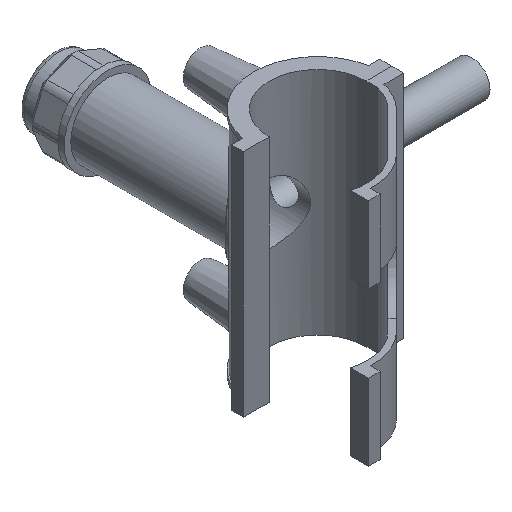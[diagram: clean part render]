
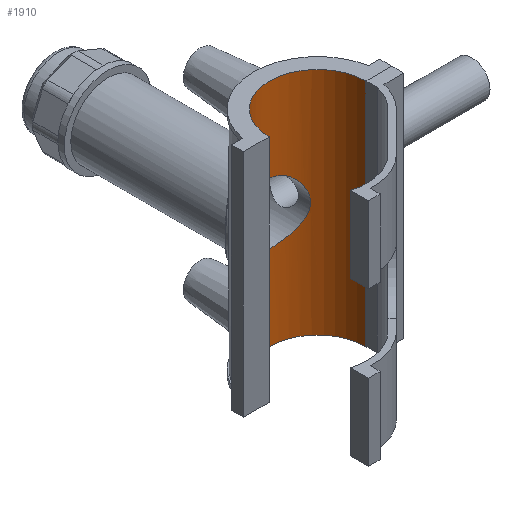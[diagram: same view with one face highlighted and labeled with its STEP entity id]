
A CAD part, isometric view. The second image highlights one B-rep face of the part: STEP entity #1910.
In plain terms, the highlighted cylindrical face has radius 21.05 mm (diameter 42.1 mm), a partial arc.
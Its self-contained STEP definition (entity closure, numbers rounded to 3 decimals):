
#114=FACE_BOUND('',#312,.T.);
#195=FACE_OUTER_BOUND('',#311,.T.);
#311=EDGE_LOOP('',(#1638,#1639,#1640,#1641));
#312=EDGE_LOOP('',(#1642,#1643));
#342=B_SPLINE_CURVE_WITH_KNOTS('',3,(#2735,#2736,#2737,#2738,#2739,#2740,
#2741,#2742,#2743,#2744,#2745,#2746,#2747,#2748,#2749,#2750,#2751,#2752,
#2753,#2754,#2755,#2756,#2757,#2758,#2759,#2760,#2761,#2762,#2763,#2764,
#2765,#2766,#2767,#2768,#2769,#2770,#2771,#2772),.UNSPECIFIED.,.F.,.F.,
(4,2,2,2,2,2,2,2,2,2,2,2,2,2,2,2,2,2,4),(0.,0.26,0.52,
1.039,1.554,1.812,2.07,2.327,
2.585,3.1,3.62,3.88,4.14,
4.399,4.659,5.179,5.694,5.952,
6.209),.UNSPECIFIED.);
#343=B_SPLINE_CURVE_WITH_KNOTS('',3,(#2773,#2774,#2775,#2776,#2777,#2778,
#2779,#2780,#2781,#2782,#2783,#2784,#2785,#2786),.UNSPECIFIED.,.F.,.F.,
(4,2,2,2,2,2,4),(6.209,6.467,6.725,7.24,
7.759,8.019,8.279),.UNSPECIFIED.);
#464=LINE('',#3675,#620);
#465=LINE('',#3679,#621);
#620=VECTOR('',#2567,10.);
#621=VECTOR('',#2570,10.);
#750=CIRCLE('',#2115,21.05);
#751=CIRCLE('',#2117,21.05);
#770=VERTEX_POINT('',#2732);
#771=VERTEX_POINT('',#2734);
#903=VERTEX_POINT('',#3669);
#905=VERTEX_POINT('',#3673);
#906=VERTEX_POINT('',#3677);
#907=VERTEX_POINT('',#3678);
#956=EDGE_CURVE('',#771,#770,#342,.T.);
#957=EDGE_CURVE('',#770,#771,#343,.T.);
#1158=EDGE_CURVE('',#903,#905,#464,.T.);
#1159=EDGE_CURVE('',#906,#907,#465,.T.);
#1165=EDGE_CURVE('',#903,#907,#750,.T.);
#1166=EDGE_CURVE('',#906,#905,#751,.T.);
#1638=ORIENTED_EDGE('',*,*,#1159,.T.);
#1639=ORIENTED_EDGE('',*,*,#1165,.F.);
#1640=ORIENTED_EDGE('',*,*,#1158,.T.);
#1641=ORIENTED_EDGE('',*,*,#1166,.F.);
#1642=ORIENTED_EDGE('',*,*,#956,.T.);
#1643=ORIENTED_EDGE('',*,*,#957,.T.);
#1822=CYLINDRICAL_SURFACE('',#2118,21.05);
#1910=ADVANCED_FACE('',(#195,#114),#1822,.F.);
#2115=AXIS2_PLACEMENT_3D('',#3688,#2578,#2579);
#2117=AXIS2_PLACEMENT_3D('',#3690,#2582,#2583);
#2118=AXIS2_PLACEMENT_3D('',#3693,#2586,#2587);
#2567=DIRECTION('',(0.,0.,-1.));
#2570=DIRECTION('',(0.,0.,1.));
#2578=DIRECTION('center_axis',(0.,0.,-1.));
#2579=DIRECTION('ref_axis',(-1.,0.,0.));
#2582=DIRECTION('center_axis',(0.,0.,1.));
#2583=DIRECTION('ref_axis',(-1.,0.,0.));
#2586=DIRECTION('center_axis',(0.,0.,1.));
#2587=DIRECTION('ref_axis',(-1.,0.,0.));
#2732=CARTESIAN_POINT('',(0.,21.05,-13.262));
#2734=CARTESIAN_POINT('',(-13.262,16.347,0.));
#2735=CARTESIAN_POINT('Ctrl Pts',(-13.262,16.347,0.));
#2736=CARTESIAN_POINT('Ctrl Pts',(-13.262,16.347,0.866));
#2737=CARTESIAN_POINT('Ctrl Pts',(-13.175,16.418,1.748));
#2738=CARTESIAN_POINT('Ctrl Pts',(-12.827,16.692,3.483));
#2739=CARTESIAN_POINT('Ctrl Pts',(-12.564,16.895,4.335));
#2740=CARTESIAN_POINT('Ctrl Pts',(-11.541,17.624,6.766));
#2741=CARTESIAN_POINT('Ctrl Pts',(-10.533,18.271,8.222));
#2742=CARTESIAN_POINT('Ctrl Pts',(-8.232,19.416,10.523));
#2743=CARTESIAN_POINT('Ctrl Pts',(-6.773,20.001,11.538));
#2744=CARTESIAN_POINT('Ctrl Pts',(-4.331,20.617,12.565));
#2745=CARTESIAN_POINT('Ctrl Pts',(-3.476,20.78,12.829));
#2746=CARTESIAN_POINT('Ctrl Pts',(-1.739,20.996,13.177));
#2747=CARTESIAN_POINT('Ctrl Pts',(-0.859,21.05,13.262));
#2748=CARTESIAN_POINT('Ctrl Pts',(0.859,21.05,13.262));
#2749=CARTESIAN_POINT('Ctrl Pts',(1.739,20.996,13.177));
#2750=CARTESIAN_POINT('Ctrl Pts',(3.476,20.78,12.829));
#2751=CARTESIAN_POINT('Ctrl Pts',(4.331,20.617,12.565));
#2752=CARTESIAN_POINT('Ctrl Pts',(6.773,20.001,11.538));
#2753=CARTESIAN_POINT('Ctrl Pts',(8.232,19.416,10.523));
#2754=CARTESIAN_POINT('Ctrl Pts',(10.533,18.271,8.222));
#2755=CARTESIAN_POINT('Ctrl Pts',(11.541,17.624,6.766));
#2756=CARTESIAN_POINT('Ctrl Pts',(12.564,16.895,4.335));
#2757=CARTESIAN_POINT('Ctrl Pts',(12.827,16.692,3.483));
#2758=CARTESIAN_POINT('Ctrl Pts',(13.175,16.418,1.748));
#2759=CARTESIAN_POINT('Ctrl Pts',(13.262,16.347,0.866));
#2760=CARTESIAN_POINT('Ctrl Pts',(13.262,16.347,-0.866));
#2761=CARTESIAN_POINT('Ctrl Pts',(13.175,16.418,-1.748));
#2762=CARTESIAN_POINT('Ctrl Pts',(12.827,16.692,-3.483));
#2763=CARTESIAN_POINT('Ctrl Pts',(12.564,16.895,-4.335));
#2764=CARTESIAN_POINT('Ctrl Pts',(11.541,17.624,-6.766));
#2765=CARTESIAN_POINT('Ctrl Pts',(10.533,18.271,-8.222));
#2766=CARTESIAN_POINT('Ctrl Pts',(8.232,19.416,-10.523));
#2767=CARTESIAN_POINT('Ctrl Pts',(6.773,20.001,-11.538));
#2768=CARTESIAN_POINT('Ctrl Pts',(4.331,20.617,-12.565));
#2769=CARTESIAN_POINT('Ctrl Pts',(3.476,20.78,-12.829));
#2770=CARTESIAN_POINT('Ctrl Pts',(1.739,20.996,-13.177));
#2771=CARTESIAN_POINT('Ctrl Pts',(0.859,21.05,-13.262));
#2772=CARTESIAN_POINT('Ctrl Pts',(0.,21.05,-13.262));
#2773=CARTESIAN_POINT('Ctrl Pts',(0.,21.05,-13.262));
#2774=CARTESIAN_POINT('Ctrl Pts',(-0.859,21.05,-13.262));
#2775=CARTESIAN_POINT('Ctrl Pts',(-1.739,20.996,-13.177));
#2776=CARTESIAN_POINT('Ctrl Pts',(-3.476,20.78,-12.829));
#2777=CARTESIAN_POINT('Ctrl Pts',(-4.331,20.617,-12.565));
#2778=CARTESIAN_POINT('Ctrl Pts',(-6.773,20.001,-11.538));
#2779=CARTESIAN_POINT('Ctrl Pts',(-8.232,19.416,-10.523));
#2780=CARTESIAN_POINT('Ctrl Pts',(-10.533,18.271,-8.222));
#2781=CARTESIAN_POINT('Ctrl Pts',(-11.541,17.624,-6.766));
#2782=CARTESIAN_POINT('Ctrl Pts',(-12.564,16.895,-4.335));
#2783=CARTESIAN_POINT('Ctrl Pts',(-12.827,16.692,-3.483));
#2784=CARTESIAN_POINT('Ctrl Pts',(-13.175,16.418,-1.748));
#2785=CARTESIAN_POINT('Ctrl Pts',(-13.262,16.347,-0.866));
#2786=CARTESIAN_POINT('Ctrl Pts',(-13.262,16.347,0.));
#3669=CARTESIAN_POINT('',(-21.05,0.05,50.038));
#3673=CARTESIAN_POINT('',(-21.05,0.05,-50.038));
#3675=CARTESIAN_POINT('',(-21.05,0.05,0.));
#3677=CARTESIAN_POINT('',(21.05,0.05,-50.038));
#3678=CARTESIAN_POINT('',(21.05,0.05,50.038));
#3679=CARTESIAN_POINT('',(21.05,0.05,0.));
#3688=CARTESIAN_POINT('Origin',(0.,0.,50.038));
#3690=CARTESIAN_POINT('Origin',(0.,0.,-50.038));
#3693=CARTESIAN_POINT('Origin',(0.,0.,0.));
